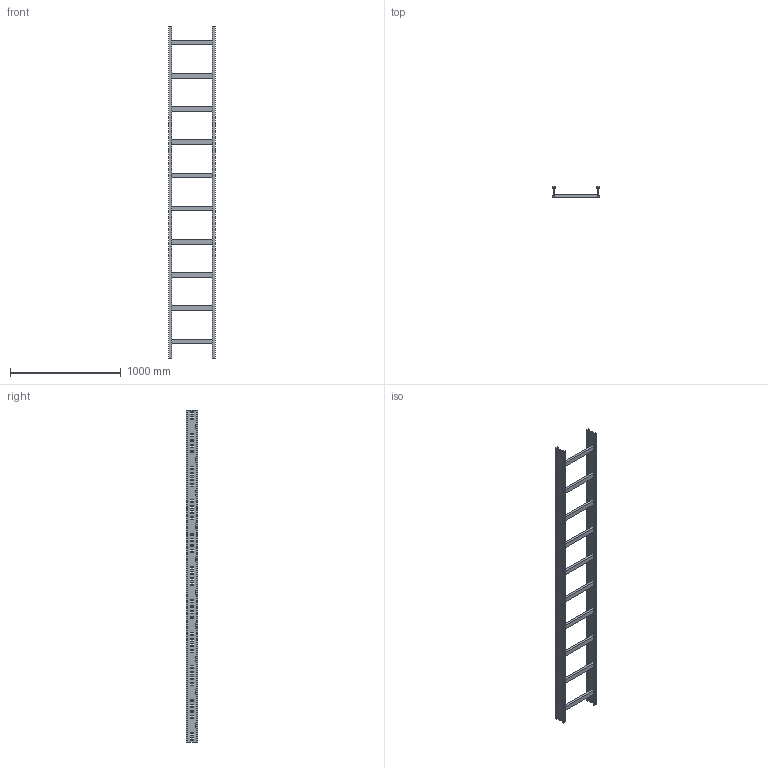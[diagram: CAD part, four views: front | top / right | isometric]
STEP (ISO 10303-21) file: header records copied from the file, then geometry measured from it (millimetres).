
FILE_DESCRIPTION (( 'STEP AP214' ), '1' );
FILE_NAME ('01S3D400.step', '2025-02-21T16:19:43', ( '' ), ( '' ), 'SwSTEP 2.0', 'SolidWorks 2023', '' );
FILE_SCHEMA (( 'AUTOMOTIVE_DESIGN' ));
Length unit declared in the file: millimetre
Products named in the file (3): LONGH.H100; TRAVERSINO_400; 01S3D400
Assembly tree (12 placements, depth 2):
  01S3D400
    LONGH.H100  x2
    TRAVERSINO_400  x10
Bounding box: 418 x 100 x 3000 mm (x, y, z)
Volume: 6343200 mm3; surface area: 2225011 mm2
Topology: 12 solids, 12 shells, 728 faces, 2112 edges, 1408 vertices
Faces by surface type: plane 728
Entity records: 11620 total; most frequent: CARTESIAN_POINT 2035, ORIENTED_EDGE 2016, DIRECTION 1718, EDGE_CURVE 1008, LINE 1008, VECTOR 1008, VERTEX_POINT 672, EDGE_LOOP 500
